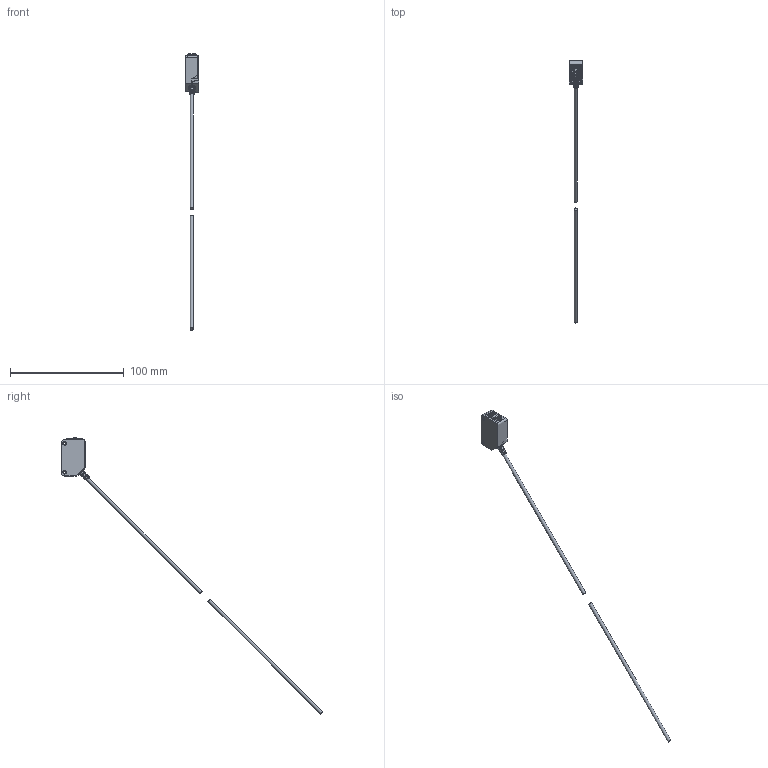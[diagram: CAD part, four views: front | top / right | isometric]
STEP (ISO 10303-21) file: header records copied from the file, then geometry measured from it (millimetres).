
FILE_DESCRIPTION(/* description */ (''),/* implementation_level */ '2;1');
FILE_NAME(/* name */ 'BGS-S10N',/* time_stamp */ '2020-06-30T10:06:10+08:00',/* author */ (''),/* organization */ (''),/* preprocessor_version */ 'ST-DEVELOPER v9',/* originating_system */ 'UGS - NX 4.0',/* authorisation */ '');
FILE_SCHEMA (('CONFIG_CONTROL_DESIGN'));
Length unit declared in the file: millimetre
Products named in the file (1): Admi8444F944ppau
Bounding box: 11.5 x 230.31 x 243.36 mm (x, y, z)
Volume: 9188.8 mm3; surface area: 7664.2 mm2
Topology: 4 solids, 4 shells, 490 faces, 1290 edges, 855 vertices
Faces by surface type: plane 278, cylinder 122, cone 38, bspline 34, torus 8, extrusion 6, sphere 4
Full cylindrical faces by diameter (mm): 1.283 x1, 1.511 x1, 2.26 x2, 2.96 x2, 3 x3, 3.05 x2, 3.15 x4, 3.76 x1, 4.2 x2, 5.5 x1, 6.5 x1
Entity records: 26411 total; most frequent: CARTESIAN_POINT 14910, ORIENTED_EDGE 2454, DIRECTION 2164, EDGE_CURVE 1227, VERTEX_POINT 829, AXIS2_PLACEMENT_3D 729, VECTOR 706, LINE 700
